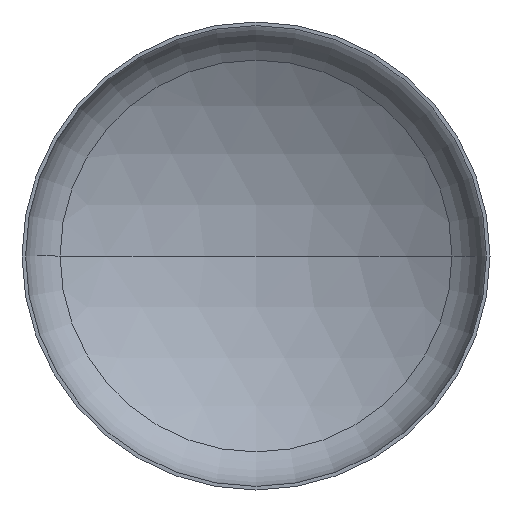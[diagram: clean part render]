
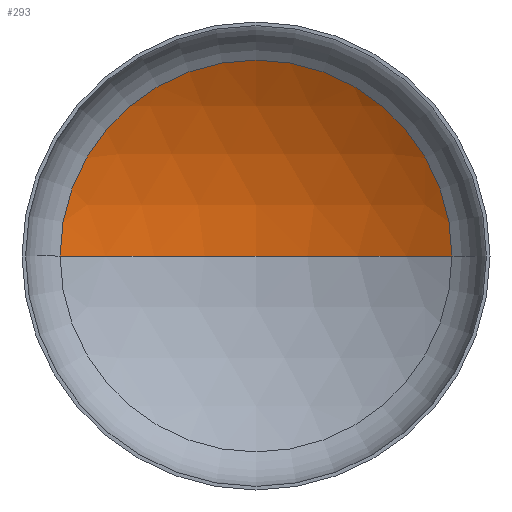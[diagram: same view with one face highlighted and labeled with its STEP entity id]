
A CAD part, front view. The second image highlights one B-rep face of the part: STEP entity #293.
In plain terms, the highlighted spherical face has radius 1760 mm.
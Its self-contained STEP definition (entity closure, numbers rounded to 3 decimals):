
#6 = VERTEX_POINT ( 'NONE', #191 ) ;
#12 = VERTEX_POINT ( 'NONE', #226 ) ;
#21 = EDGE_LOOP ( 'NONE', ( #68, #199, #189 ) ) ;
#26 = CARTESIAN_POINT ( 'NONE',  ( 0., -1155.104, 0. ) ) ;
#34 = AXIS2_PLACEMENT_3D ( 'NONE', #137, #216, #213 ) ;
#36 = AXIS2_PLACEMENT_3D ( 'NONE', #201, #204, #202 ) ;
#44 = AXIS2_PLACEMENT_3D ( 'NONE', #26, #411, #238 ) ;
#67 = VERTEX_POINT ( 'NONE', #270 ) ;
#68 = ORIENTED_EDGE ( 'NONE', *, *, #377, .F. ) ;
#116 = CIRCLE ( 'NONE', #36, 920.901 ) ;
#137 = CARTESIAN_POINT ( 'NONE',  ( 0., -1155.104, 0. ) ) ;
#149 = CARTESIAN_POINT ( 'NONE',  ( 0., -1155.104, 0. ) ) ;
#171 = DIRECTION ( 'NONE',  ( 1., 0., 0. ) ) ;
#189 = ORIENTED_EDGE ( 'NONE', *, *, #328, .T. ) ;
#191 = CARTESIAN_POINT ( 'NONE',  ( 0., 604.896, 0. ) ) ;
#199 = ORIENTED_EDGE ( 'NONE', *, *, #330, .T. ) ;
#201 = CARTESIAN_POINT ( 'NONE',  ( 0., 344.743, 0. ) ) ;
#202 = DIRECTION ( 'NONE',  ( 1., 0., 0. ) ) ;
#203 = FACE_OUTER_BOUND ( 'NONE', #21, .T. ) ;
#204 = DIRECTION ( 'NONE',  ( 0., -1., 0. ) ) ;
#213 = DIRECTION ( 'NONE',  ( -1., 0., 0. ) ) ;
#216 = DIRECTION ( 'NONE',  ( 0., 0., -1. ) ) ;
#226 = CARTESIAN_POINT ( 'NONE',  ( 920.901, 344.743, 0. ) ) ;
#228 = AXIS2_PLACEMENT_3D ( 'NONE', #149, #301, #171 ) ;
#238 = DIRECTION ( 'NONE',  ( -1., 0., 0. ) ) ;
#240 = CIRCLE ( 'NONE', #228, 1760. ) ;
#256 = CIRCLE ( 'NONE', #34, 1760. ) ;
#270 = CARTESIAN_POINT ( 'NONE',  ( -920.901, 344.743, 0. ) ) ;
#272 = SPHERICAL_SURFACE ( 'NONE', #44, 1760. ) ;
#293 = ADVANCED_FACE ( 'NONE', ( #203 ), #272, .F. ) ;
#301 = DIRECTION ( 'NONE',  ( 0., 0., 1. ) ) ;
#328 = EDGE_CURVE ( 'NONE', #12, #67, #116, .T. ) ;
#330 = EDGE_CURVE ( 'NONE', #6, #12, #256, .T. ) ;
#377 = EDGE_CURVE ( 'NONE', #6, #67, #240, .T. ) ;
#411 = DIRECTION ( 'NONE',  ( 0., 0., -1. ) ) ;
